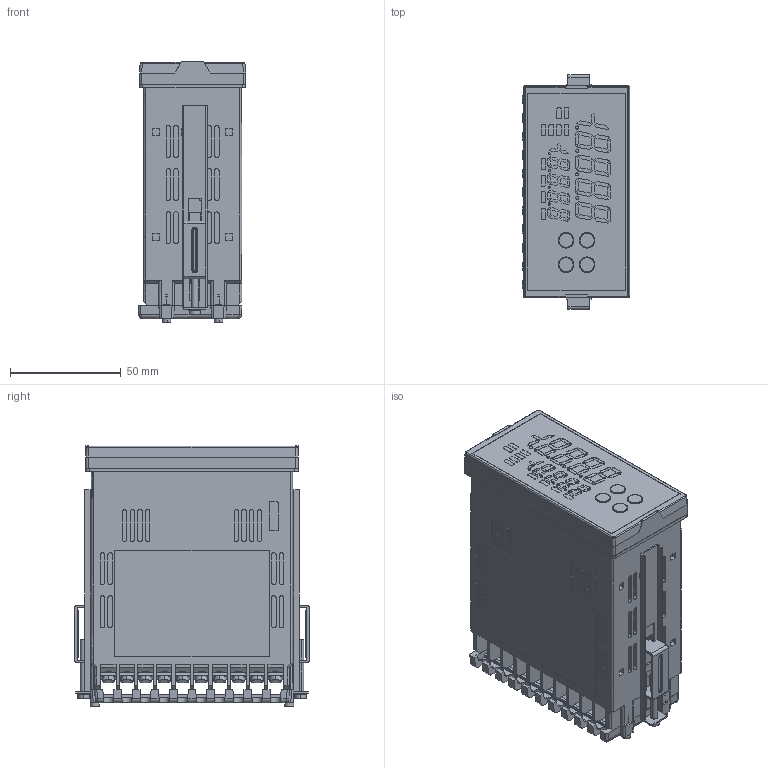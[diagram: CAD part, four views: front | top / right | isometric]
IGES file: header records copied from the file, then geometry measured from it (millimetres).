
Start section: SolidWorks IGES file using analytic representation for surfaces
Global section: file name: C:\Users\kawanishi.SHINKO-TECHNOS\3D データ\JIR-300\D01-026-1\HP_3D\JIR_iges\AS_JIR_170124.IGS,15; native system: HSolidWorks 2013; preprocessor: SolidWorks 2013; author: kawanishi; date: 170124.111742; units: millimetre
Bounding box: 48.5 x 106.2 x 117.8 mm (x, y, z)
Surface area: 72306.2 mm2 (no closed solid volume)
Topology: 0 solids, 0 shells, 1959 faces, 19254 edges, 19250 vertices
Faces by surface type: bspline 1397, revolution 562
